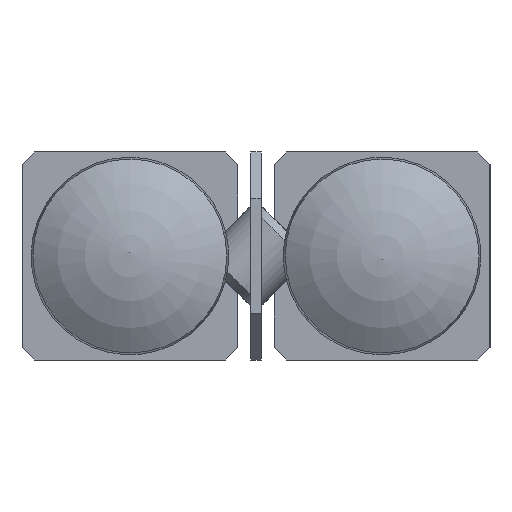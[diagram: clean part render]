
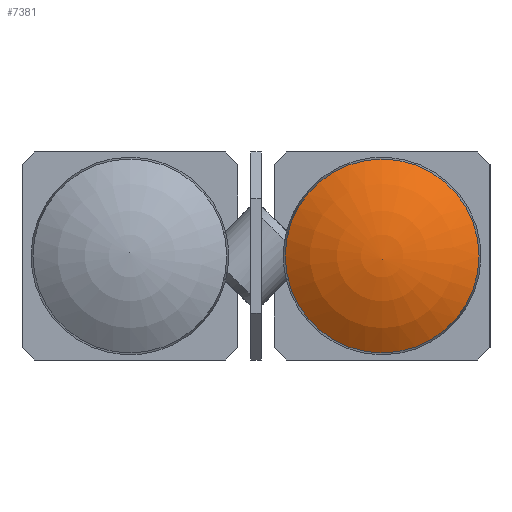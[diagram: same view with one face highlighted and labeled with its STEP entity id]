
A CAD part, left-side view. The second image highlights one B-rep face of the part: STEP entity #7381.
In plain terms, the highlighted toroidal (fillet/blend) face has major radius 0.059 mm and minor radius 6.5 mm.
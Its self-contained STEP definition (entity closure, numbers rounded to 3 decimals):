
#148=VERTEX_LOOP('',#3573);
#152=DEGENERATE_TOROIDAL_SURFACE('',#7906,0.059,6.5,
 .F.);
#359=CIRCLE('',#7905,3.728);
#702=ORIENTED_EDGE('',*,*,#2596,.F.);
#2596=EDGE_CURVE('',#3572,#3572,#359,.T.);
#3572=VERTEX_POINT('',#10991);
#3573=VERTEX_POINT('',#10993);
#5658=EDGE_LOOP('',(#702));
#6406=FACE_BOUND('',#148,.T.);
#6407=FACE_BOUND('',#5658,.T.);
#7381=ADVANCED_FACE('',(#6406,#6407),#152,.F.);
#7905=AXIS2_PLACEMENT_3D('',#10990,#8821,#8822);
#7906=AXIS2_PLACEMENT_3D('',#10992,#8823,#8824);
#8821=DIRECTION('',(1.,0.,0.));
#8822=DIRECTION('',(0.,0.,-1.));
#8823=DIRECTION('',(1.,0.,0.));
#8824=DIRECTION('',(0.,0.,-1.));
#10990=CARTESIAN_POINT('',(1.217,-4.85,0.));
#10991=CARTESIAN_POINT('',(1.217,-4.85,-3.728));
#10992=CARTESIAN_POINT('',(6.5,-4.85,0.));
#10993=CARTESIAN_POINT('',(0.,-4.85,0.));
